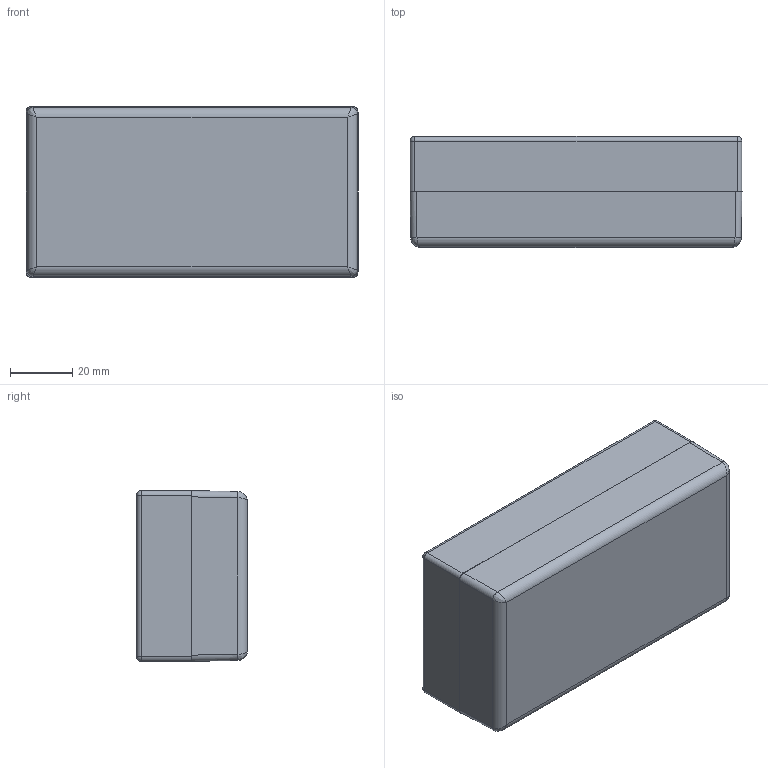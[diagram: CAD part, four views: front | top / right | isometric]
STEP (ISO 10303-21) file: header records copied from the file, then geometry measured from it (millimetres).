
FILE_DESCRIPTION (( 'STEP AP214' ), '1' );
FILE_NAME ('Conjunt PP21.STEP', '2018-06-09T08:40:28', ( 'aaa' ), ( '' ), 'SwSTEP 2.0', 'SolidWorks 2013', '' );
FILE_SCHEMA (( 'AUTOMOTIVE_DESIGN' ));
Length unit declared in the file: millimetre
Products named in the file (5): Cargol   2,2x16  DIN7982; Cargol 2,1x6,5 PP21; Tapa PP21; Cuerpo PP21; Conjunt PP21
Assembly tree (4 placements, depth 2):
  Conjunt PP21
    Cuerpo PP21
    Tapa PP21
    Cargol 2,1x6,5 PP21
    Cargol   2,2x16  DIN7982
Bounding box: 107 x 35.7 x 55 mm (x, y, z)
Volume: 47295.4 mm3; surface area: 47208.1 mm2
Topology: 4 solids, 4 shells, 317 faces, 676 edges, 378 vertices
Faces by surface type: cone 166, plane 77, cylinder 58, torus 8, bspline 4, sphere 4
Entity records: 8640 total; most frequent: DIRECTION 1576, CARTESIAN_POINT 1566, ORIENTED_EDGE 1328, EDGE_CURVE 664, AXIS2_PLACEMENT_3D 604, VERTEX_POINT 378, LINE 368, VECTOR 368
